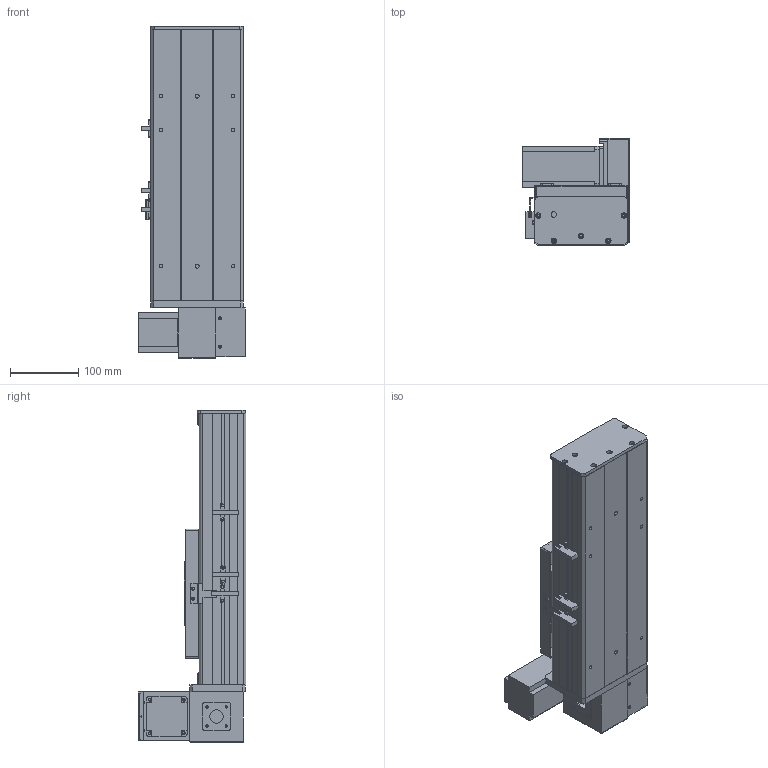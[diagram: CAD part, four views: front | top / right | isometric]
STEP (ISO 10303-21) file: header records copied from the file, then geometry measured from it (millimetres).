
FILE_DESCRIPTION (( 'STEP AP203' ), '1' );
FILE_NAME ('Y135CB-D90-S100-UL-P400W.STEP', '2020-02-18T06:58:20', ( '微软用户' ), ( '微软中国' ), 'SwSTEP 2.0', 'SolidWorks 2017', '' );
FILE_SCHEMA (( 'CONFIG_CONTROL_DESIGN' ));
Length unit declared in the file: millimetre
Products named in the file (18): 00B-俋欶BM--; 135CB--詩湍-CE; 135CB---遴掛极.-; Y10B--々湍喘謫眊--666; Y100-135俋离換覜ん--; 35CB---喘謫眊楊擘啣; Y135CB-D90-S100-UL-P400W; Y135C-陔俋离換覜結え-; 0B-埴倛裔啣; 5C--俋欶; 0B-源倛裔啣; C-雄赽釱--; 0B-萇儂楊擘啣; san松下电机400不带刹车----; 5CB --掛极耜裔啣-; Y10B-耜蚾蟀諉啣----; C-詩湍揤踡え-陔; Y135CB-耜裔
Assembly tree (21 placements, depth 2):
  Y135CB-D90-S100-UL-P400W
    Y135CB-耜裔
    135CB---遴掛极.-
    35CB---喘謫眊楊擘啣
    0B-埴倛裔啣
    0B-源倛裔啣
    0B-萇儂楊擘啣
    san松下电机400不带刹车----
    5CB --掛极耜裔啣-  x2
    C-詩湍揤踡え-陔  x2
    135CB--詩湍-CE
    Y100-135俋离換覜ん--  x3
    Y135C-陔俋离換覜結え-
    5C--俋欶
    C-雄赽釱--
    Y10B-耜蚾蟀諉啣----
    00B-俋欶BM--
    Y10B--々湍喘謫眊--666
Bounding box: 157 x 158.7 x 488 mm (x, y, z)
Volume: 2049118.7 mm3; surface area: 778001.8 mm2
Topology: 21 solids, 21 shells, 929 faces, 2455 edges, 1626 vertices
Faces by surface type: cylinder 457, plane 456, cone 16
Entity records: 28541 total; most frequent: DIRECTION 4739, CARTESIAN_POINT 4636, ORIENTED_EDGE 4386, EDGE_CURVE 2193, AXIS2_PLACEMENT_3D 1721, VERTEX_POINT 1454, LINE 1297, VECTOR 1297
